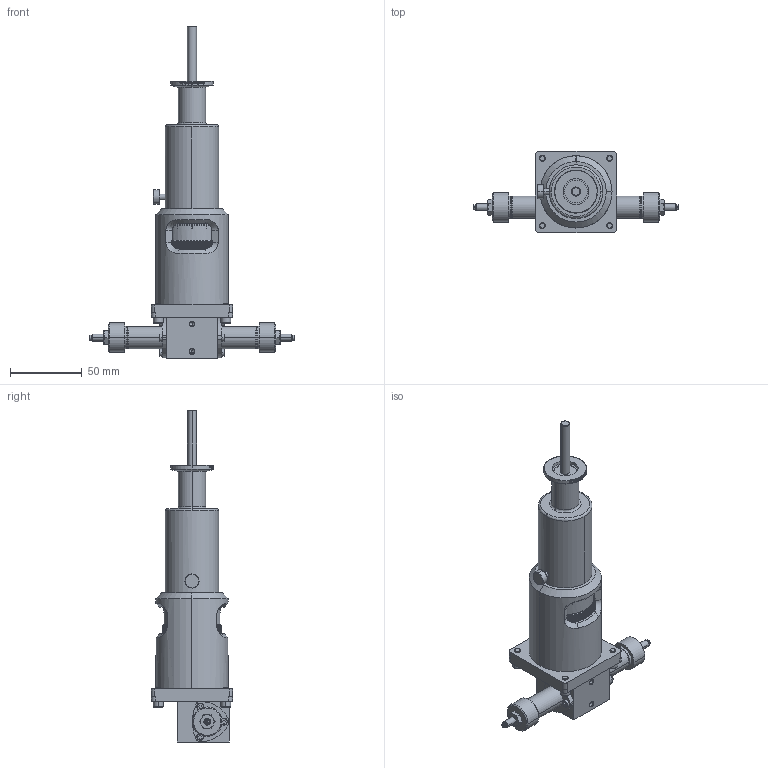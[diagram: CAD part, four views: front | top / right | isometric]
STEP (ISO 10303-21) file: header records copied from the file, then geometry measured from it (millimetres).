
FILE_DESCRIPTION (( 'STEP AP203' ), '1' );
FILE_NAME ('102140.31.stp', '2019-04-18T17:16:20', ( '' ), ( '' ), 'SwSTEP 2.0', 'SolidWorks 2012', '' );
FILE_SCHEMA (( 'CONFIG_CONTROL_DESIGN' ));
Length unit declared in the file: centimetre
Products named in the file (1): 102140.31
Bounding box: 143.87 x 56.64 x 232 mm (x, y, z)
Volume: 287441 mm3; surface area: 45223.2 mm2
Topology: 1 solids, 12 shells, 1521 faces, 4162 edges, 2733 vertices
Faces by surface type: plane 712, cylinder 503, bspline 156, cone 150
Entity records: 74144 total; most frequent: CARTESIAN_POINT 36540, ORIENTED_EDGE 8292, DIRECTION 7337, EDGE_CURVE 4146, VERTEX_POINT 2733, AXIS2_PLACEMENT_3D 2699, LINE 1939, VECTOR 1939
